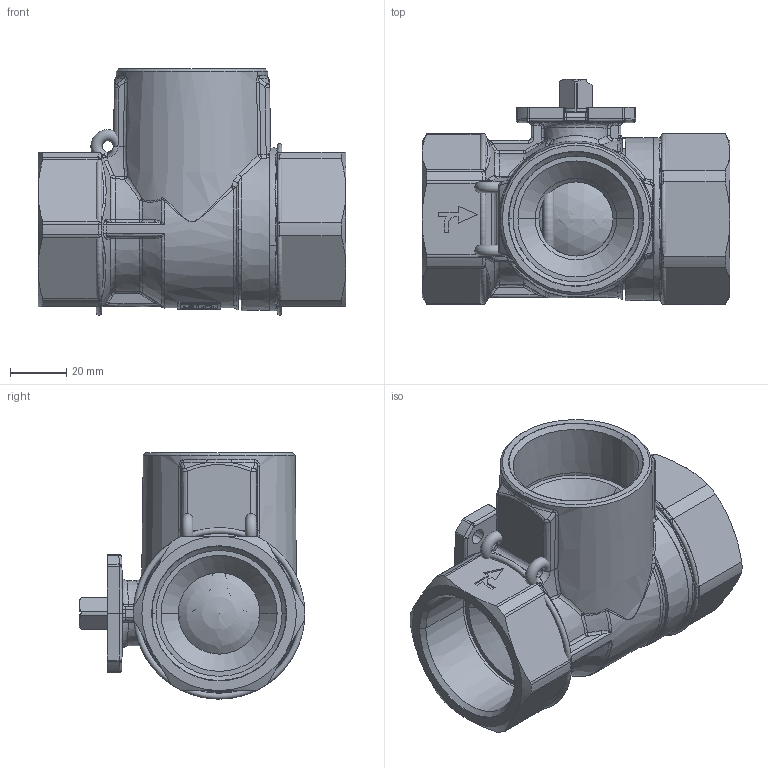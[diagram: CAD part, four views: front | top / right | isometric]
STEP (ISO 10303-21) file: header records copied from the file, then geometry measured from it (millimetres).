
FILE_DESCRIPTION((''),'2;1');
FILE_NAME('H980T1040_1369_ASM','2010-04-12T',('62marco'),(''),'PRO/ENGINEER BY PARAMETRIC TECHNOLOGY CORPORATION, 2008170','PRO/ENGINEER BY PARAMETRIC TECHNOLOGY CORPORATION, 2008170','');
FILE_SCHEMA(('CONFIG_CONTROL_DESIGN'));
Products named in the file (10): CC980T040_1219_SAUTER; CXP980025_92; CXG980025_1330; CXGOR2037_692; CXKBT1032_1163; CXH98M032_155; CXGOR3143_692; CM98GF040_1176; CINBS1032_155; H980T1040_1369_ASM
Assembly tree (12 placements, depth 2):
  H980T1040_1369_ASM
    CC980T040_1219_SAUTER
    CXP980025_92
    CXG980025_1330
    CXGOR2037_692  x2
    CXKBT1032_1163
    CXH98M032_155  x2
    CXGOR3143_692  x2
    CM98GF040_1176
    CINBS1032_155
Bounding box: 109.6 x 80.3 x 87.6 mm (x, y, z)
Surface area: 141040.5 mm2 (no closed solid volume)
Topology: 0 solids, 0 shells, 1297 faces, 6617 edges, 6494 vertices
Faces by surface type: bspline 1179, torus 100, sphere 18
Entity records: 111709 total; most frequent: CARTESIAN_POINT 56809, DIRECTION 8209, TRIMMED_CURVE 7161, VECTOR 6373, LINE 6373, DEFINITIONAL_REPRESENTATION 6300, PCURVE 6300, COMPOSITE_CURVE_SEGMENT 6300
